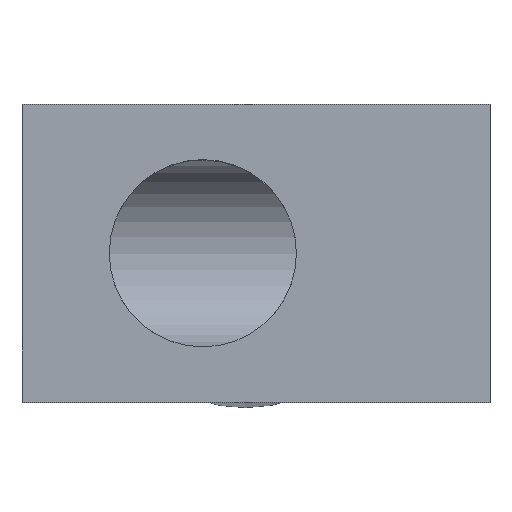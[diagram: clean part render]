
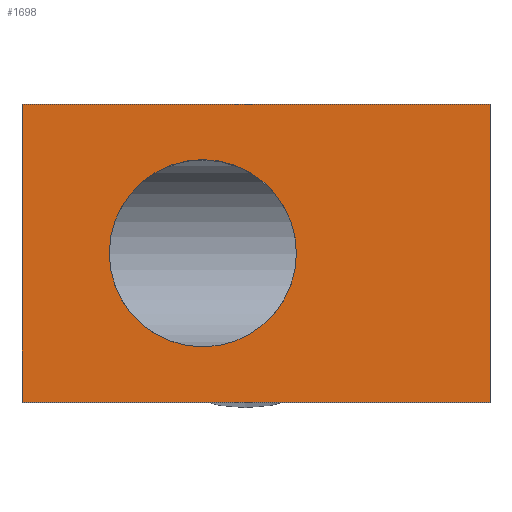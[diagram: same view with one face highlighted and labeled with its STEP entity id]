
A CAD part, top view. The second image highlights one B-rep face of the part: STEP entity #1698.
In plain terms, the highlighted planar face has unit normal (0, 0, 1) as drawn and (0, 1, 0) by its records, which use the part's own axes.
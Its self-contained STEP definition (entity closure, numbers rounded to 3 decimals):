
#21 = DIRECTION ( 'NONE',  ( -1., 0., 0. ) ) ;
#77 = EDGE_CURVE ( 'NONE', #3344, #4938, #2676, .T. ) ;
#163 = EDGE_CURVE ( 'NONE', #6889, #2011, #6721, .T. ) ;
#239 = VECTOR ( 'NONE', #2976, 1000. ) ;
#246 = ORIENTED_EDGE ( 'NONE', *, *, #4609, .T. ) ;
#803 = CARTESIAN_POINT ( 'NONE',  ( -25.849, 42.459, 0. ) ) ;
#897 = AXIS2_PLACEMENT_3D ( 'NONE', #4615, #2919, #6388 ) ;
#929 = CARTESIAN_POINT ( 'NONE',  ( -39.849, 42.459, -11. ) ) ;
#941 = CARTESIAN_POINT ( 'NONE',  ( -32.849, 42.459, 2.5 ) ) ;
#968 = ORIENTED_EDGE ( 'NONE', *, *, #163, .F. ) ;
#1698 = ADVANCED_FACE ( 'NONE', ( #4038, #5138 ), #2838, .T. ) ;
#1714 = EDGE_CURVE ( 'NONE', #5815, #3344, #3557, .T. ) ;
#1750 = DIRECTION ( 'NONE',  ( 0., 0., 1. ) ) ;
#2011 = VERTEX_POINT ( 'NONE', #3914 ) ;
#2026 = LINE ( 'NONE', #4314, #2421 ) ;
#2093 = VECTOR ( 'NONE', #1750, 1000. ) ;
#2281 = CARTESIAN_POINT ( 'NONE',  ( -39.849, 42.459, 0. ) ) ;
#2421 = VECTOR ( 'NONE', #5486, 1000. ) ;
#2676 = LINE ( 'NONE', #3384, #6114 ) ;
#2838 = PLANE ( 'NONE',  #897 ) ;
#2919 = DIRECTION ( 'NONE',  ( 0., 1., 0. ) ) ;
#2976 = DIRECTION ( 'NONE',  ( 0., 0., -1. ) ) ;
#3095 = EDGE_LOOP ( 'NONE', ( #5100, #7329, #246, #3413 ) ) ;
#3228 = DIRECTION ( 'NONE',  ( 0., 1., 0. ) ) ;
#3344 = VERTEX_POINT ( 'NONE', #6077 ) ;
#3384 = CARTESIAN_POINT ( 'NONE',  ( -32.849, 42.459, 11. ) ) ;
#3413 = ORIENTED_EDGE ( 'NONE', *, *, #1714, .T. ) ;
#3496 = ORIENTED_EDGE ( 'NONE', *, *, #4292, .F. ) ;
#3539 = DIRECTION ( 'NONE',  ( 0., 1., 0. ) ) ;
#3551 = CARTESIAN_POINT ( 'NONE',  ( -37.249, 42.459, 2.5 ) ) ;
#3557 = LINE ( 'NONE', #2281, #2093 ) ;
#3687 = VERTEX_POINT ( 'NONE', #4731 ) ;
#3911 = DIRECTION ( 'NONE',  ( 1., 0., 0. ) ) ;
#3914 = CARTESIAN_POINT ( 'NONE',  ( -28.449, 42.459, 2.5 ) ) ;
#4038 = FACE_BOUND ( 'NONE', #4995, .T. ) ;
#4149 = EDGE_CURVE ( 'NONE', #4938, #3687, #4176, .T. ) ;
#4176 = LINE ( 'NONE', #803, #239 ) ;
#4292 = EDGE_CURVE ( 'NONE', #2011, #6889, #5884, .T. ) ;
#4314 = CARTESIAN_POINT ( 'NONE',  ( -32.849, 42.459, -11. ) ) ;
#4609 = EDGE_CURVE ( 'NONE', #3687, #5815, #2026, .T. ) ;
#4615 = CARTESIAN_POINT ( 'NONE',  ( -39.849, 42.459, -11. ) ) ;
#4731 = CARTESIAN_POINT ( 'NONE',  ( -25.849, 42.459, -11. ) ) ;
#4938 = VERTEX_POINT ( 'NONE', #5855 ) ;
#4995 = EDGE_LOOP ( 'NONE', ( #968, #3496 ) ) ;
#5100 = ORIENTED_EDGE ( 'NONE', *, *, #77, .T. ) ;
#5138 = FACE_OUTER_BOUND ( 'NONE', #3095, .T. ) ;
#5160 = AXIS2_PLACEMENT_3D ( 'NONE', #6291, #3539, #21 ) ;
#5486 = DIRECTION ( 'NONE',  ( -1., 0., 0. ) ) ;
#5536 = DIRECTION ( 'NONE',  ( -1., 0., 0. ) ) ;
#5815 = VERTEX_POINT ( 'NONE', #929 ) ;
#5855 = CARTESIAN_POINT ( 'NONE',  ( -25.849, 42.459, 11. ) ) ;
#5884 = CIRCLE ( 'NONE', #6112, 4.4 ) ;
#6077 = CARTESIAN_POINT ( 'NONE',  ( -39.849, 42.459, 11. ) ) ;
#6112 = AXIS2_PLACEMENT_3D ( 'NONE', #941, #3228, #5536 ) ;
#6114 = VECTOR ( 'NONE', #3911, 1000. ) ;
#6291 = CARTESIAN_POINT ( 'NONE',  ( -32.849, 42.459, 2.5 ) ) ;
#6388 = DIRECTION ( 'NONE',  ( 0., 0., 1. ) ) ;
#6721 = CIRCLE ( 'NONE', #5160, 4.4 ) ;
#6889 = VERTEX_POINT ( 'NONE', #3551 ) ;
#7329 = ORIENTED_EDGE ( 'NONE', *, *, #4149, .T. ) ;
